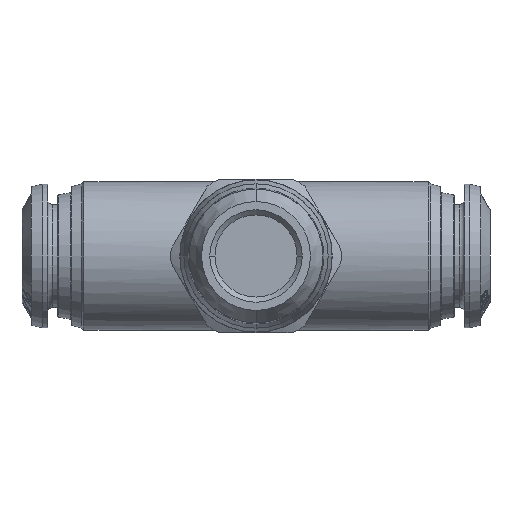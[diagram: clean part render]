
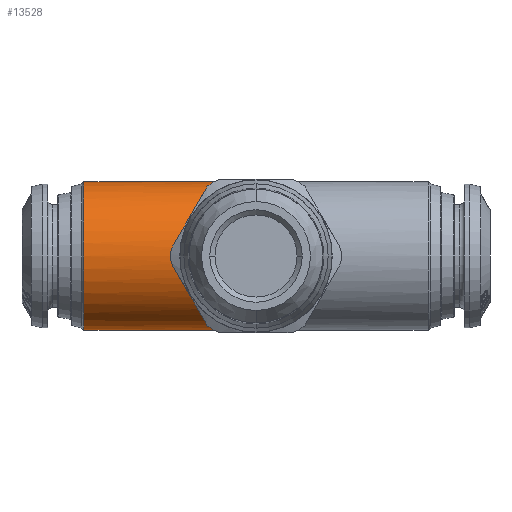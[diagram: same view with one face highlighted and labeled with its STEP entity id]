
A CAD part, front view. The second image highlights one B-rep face of the part: STEP entity #13528.
In plain terms, the highlighted cylindrical face has radius 7.25 mm (diameter 14.5 mm), a partial arc.
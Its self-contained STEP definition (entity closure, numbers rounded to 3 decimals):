
#520 = CARTESIAN_POINT ( 'NONE',  ( -5.082, -2.107, -6.888 ) ) ;
#521 = CARTESIAN_POINT ( 'NONE',  ( -4.836, -2.533, -6.714 ) ) ;
#929 = DIRECTION ( 'NONE',  ( -1., 0., 0. ) ) ;
#931 = DIRECTION ( 'NONE',  ( 0., 0., 1. ) ) ;
#933 = CARTESIAN_POINT ( 'NONE',  ( -21.101, 0.202, 0. ) ) ;
#2325 = EDGE_CURVE ( 'NONE', #17082, #17084, #2846, .T. ) ;
#2329 = EDGE_CURVE ( 'NONE', #17084, #17086, #2849, .T. ) ;
#2846 = B_SPLINE_CURVE_WITH_KNOTS ( 'NONE', 3,
 ( #521, #520, #18707, #18708, #18709, #18710 ),
 .UNSPECIFIED., .F., .F.,
 ( 4, 2, 4 ),
 ( 0., 0.493, 1. ),
 .UNSPECIFIED. ) ;
#2849 = B_SPLINE_CURVE_WITH_KNOTS ( 'NONE', 3,
 ( #18732, #18734, #18739, #18740 ),
 .UNSPECIFIED., .F., .F.,
 ( 4, 4 ),
 ( 0., 0.003 ),
 .UNSPECIFIED. ) ;
#6277 =( BOUNDED_CURVE ( )  B_SPLINE_CURVE ( 3, ( #9667, #9692, #9698, #9699 ),
 .UNSPECIFIED., .F., .F. ) 
 B_SPLINE_CURVE_WITH_KNOTS ( ( 4, 4 ),
 ( 0., 1.184 ),
 .UNSPECIFIED. ) 
 CURVE ( )  GEOMETRIC_REPRESENTATION_ITEM ( )  RATIONAL_B_SPLINE_CURVE ( ( 1., 0.887, 0.887, 1. ) ) 
 REPRESENTATION_ITEM ( '' )  );
#6278 = B_SPLINE_CURVE_WITH_KNOTS ( 'NONE', 3,
 ( #9693, #9682, #9700, #9701, #9702, #9703 ),
 .UNSPECIFIED., .F., .F.,
 ( 4, 2, 4 ),
 ( 0.52, 0.764, 1. ),
 .UNSPECIFIED. ) ;
#7252 = CARTESIAN_POINT ( 'NONE',  ( -18.869, 0.202, 7.25 ) ) ;
#7253 = CARTESIAN_POINT ( 'NONE',  ( -18.869, 0.202, -7.25 ) ) ;
#7270 = CARTESIAN_POINT ( 'NONE',  ( -4.836, -2.533, 6.714 ) ) ;
#7271 = CARTESIAN_POINT ( 'NONE',  ( -9.351, -7.048, 0. ) ) ;
#7280 = CARTESIAN_POINT ( 'NONE',  ( -6.415, 0.202, 7.25 ) ) ;
#7729 = VERTEX_POINT ( 'NONE', #7252 ) ;
#7730 = VERTEX_POINT ( 'NONE', #7253 ) ;
#7747 = VERTEX_POINT ( 'NONE', #7270 ) ;
#7748 = VERTEX_POINT ( 'NONE', #7271 ) ;
#7757 = VERTEX_POINT ( 'NONE', #7280 ) ;
#8059 = EDGE_CURVE ( 'NONE', #7748, #17082, #6277, .T. ) ;
#8060 = EDGE_CURVE ( 'NONE', #7757, #7747, #6278, .T. ) ;
#8061 = EDGE_CURVE ( 'NONE', #7729, #7730, #9027, .T. ) ;
#9027 = CIRCLE ( 'NONE', #11755, 7.25 ) ;
#9360 = FACE_OUTER_BOUND ( 'NONE', #17796, .T. ) ;
#9367 = CYLINDRICAL_SURFACE ( 'NONE', #22493, 7.25 ) ;
#9667 = CARTESIAN_POINT ( 'NONE',  ( -9.351, -7.048, 0. ) ) ;
#9682 = CARTESIAN_POINT ( 'NONE',  ( -6.141, -0.273, 7.25 ) ) ;
#9692 = CARTESIAN_POINT ( 'NONE',  ( -9.351, -7.048, -3.042 ) ) ;
#9693 = CARTESIAN_POINT ( 'NONE',  ( -6.415, 0.202, 7.25 ) ) ;
#9698 = CARTESIAN_POINT ( 'NONE',  ( -7.653, -5.351, -5.567 ) ) ;
#9699 = CARTESIAN_POINT ( 'NONE',  ( -4.836, -2.533, -6.714 ) ) ;
#9700 = CARTESIAN_POINT ( 'NONE',  ( -5.867, -0.747, 7.203 ) ) ;
#9701 = CARTESIAN_POINT ( 'NONE',  ( -5.338, -1.664, 7.021 ) ) ;
#9702 = CARTESIAN_POINT ( 'NONE',  ( -5.082, -2.107, 6.888 ) ) ;
#9703 = CARTESIAN_POINT ( 'NONE',  ( -4.836, -2.533, 6.714 ) ) ;
#9705 = CARTESIAN_POINT ( 'NONE',  ( -18.869, 0.202, 0. ) ) ;
#9706 = DIRECTION ( 'NONE',  ( 1., 0., 0. ) ) ;
#9707 = DIRECTION ( 'NONE',  ( 0., 0., -1. ) ) ;
#10862 = ORIENTED_EDGE ( 'NONE', *, *, #20336, .F. ) ;
#10863 = ORIENTED_EDGE ( 'NONE', *, *, #2329, .F. ) ;
#10864 = ORIENTED_EDGE ( 'NONE', *, *, #2325, .F. ) ;
#10865 = ORIENTED_EDGE ( 'NONE', *, *, #8059, .F. ) ;
#10866 = ORIENTED_EDGE ( 'NONE', *, *, #20323, .F. ) ;
#10867 = ORIENTED_EDGE ( 'NONE', *, *, #8060, .F. ) ;
#10868 = ORIENTED_EDGE ( 'NONE', *, *, #20337, .T. ) ;
#10869 = ORIENTED_EDGE ( 'NONE', *, *, #8061, .T. ) ;
#11755 = AXIS2_PLACEMENT_3D ( 'NONE', #9705, #9706, #9707 ) ;
#11867 = CARTESIAN_POINT ( 'NONE',  ( -4.836, -2.533, 6.714 ) ) ;
#11868 = CARTESIAN_POINT ( 'NONE',  ( -7.653, -5.351, 5.567 ) ) ;
#11873 = CARTESIAN_POINT ( 'NONE',  ( -9.351, -7.048, 3.042 ) ) ;
#11874 = CARTESIAN_POINT ( 'NONE',  ( -9.351, -7.048, 0. ) ) ;
#11925 = CARTESIAN_POINT ( 'NONE',  ( -21.101, 0.202, -7.25 ) ) ;
#11926 = DIRECTION ( 'NONE',  ( -1., 0., 0. ) ) ;
#11927 = CARTESIAN_POINT ( 'NONE',  ( -21.101, 0.202, 7.25 ) ) ;
#11928 = DIRECTION ( 'NONE',  ( -1., 0., 0. ) ) ;
#13528 = ADVANCED_FACE ( 'NONE', ( #9360 ), #9367, .T. ) ;
#15300 = LINE ( 'NONE', #11925, #15305 ) ;
#15304 = LINE ( 'NONE', #11927, #15307 ) ;
#15305 = VECTOR ( 'NONE', #11926, 1000. ) ;
#15307 = VECTOR ( 'NONE', #11928, 1000. ) ;
#17082 = VERTEX_POINT ( 'NONE', #24824 ) ;
#17084 = VERTEX_POINT ( 'NONE', #24825 ) ;
#17086 = VERTEX_POINT ( 'NONE', #24826 ) ;
#17796 = EDGE_LOOP ( 'NONE', ( #10862, #10863, #10864, #10865, #10866, #10867, #10868, #10869 ) ) ;
#18707 = CARTESIAN_POINT ( 'NONE',  ( -5.338, -1.664, -7.021 ) ) ;
#18708 = CARTESIAN_POINT ( 'NONE',  ( -5.866, -0.749, -7.203 ) ) ;
#18709 = CARTESIAN_POINT ( 'NONE',  ( -6.14, -0.275, -7.25 ) ) ;
#18710 = CARTESIAN_POINT ( 'NONE',  ( -6.413, 0.198, -7.25 ) ) ;
#18732 = CARTESIAN_POINT ( 'NONE',  ( -6.413, 0.198, -7.25 ) ) ;
#18734 = CARTESIAN_POINT ( 'NONE',  ( -6.414, 0.199, -7.25 ) ) ;
#18739 = CARTESIAN_POINT ( 'NONE',  ( -6.414, 0.2, -7.25 ) ) ;
#18740 = CARTESIAN_POINT ( 'NONE',  ( -6.415, 0.202, -7.25 ) ) ;
#19641 =( BOUNDED_CURVE ( )  B_SPLINE_CURVE ( 3, ( #11867, #11868, #11873, #11874 ),
 .UNSPECIFIED., .F., .F. ) 
 B_SPLINE_CURVE_WITH_KNOTS ( ( 4, 4 ),
 ( 5.099, 6.283 ),
 .UNSPECIFIED. ) 
 CURVE ( )  GEOMETRIC_REPRESENTATION_ITEM ( )  RATIONAL_B_SPLINE_CURVE ( ( 1., 0.887, 0.887, 1. ) ) 
 REPRESENTATION_ITEM ( '' )  );
#20323 = EDGE_CURVE ( 'NONE', #7747, #7748, #19641, .T. ) ;
#20336 = EDGE_CURVE ( 'NONE', #17086, #7730, #15300, .T. ) ;
#20337 = EDGE_CURVE ( 'NONE', #7757, #7729, #15304, .T. ) ;
#22493 = AXIS2_PLACEMENT_3D ( 'NONE', #933, #929, #931 ) ;
#24824 = CARTESIAN_POINT ( 'NONE',  ( -4.836, -2.533, -6.714 ) ) ;
#24825 = CARTESIAN_POINT ( 'NONE',  ( -6.413, 0.198, -7.25 ) ) ;
#24826 = CARTESIAN_POINT ( 'NONE',  ( -6.415, 0.202, -7.25 ) ) ;
